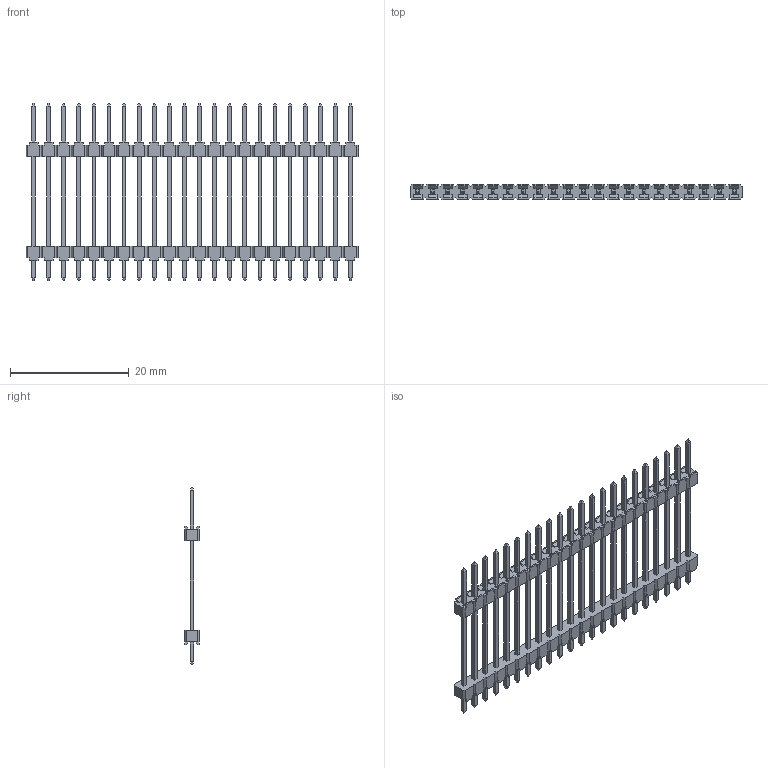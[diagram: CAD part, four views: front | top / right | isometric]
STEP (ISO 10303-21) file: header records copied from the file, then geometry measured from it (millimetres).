
FILE_DESCRIPTION(/* description */ (''),/* implementation_level */ '2;1');
FILE_NAME(/* name */ '961422-9041304-XX',/* time_stamp */ '2007-06-14T17:48:45+02:00',/* author */ (''),/* organization */ (''),/* preprocessor_version */ 'ST-DEVELOPER v9',/* originating_system */ 'UGS - NX 3.0',/* authorisation */ '');
FILE_SCHEMA (('AUTOMOTIVE_DESIGN { 1 0 10303 214 1 1 1 1 }'));
Length unit declared in the file: millimetre
Products named in the file (1): 961422-9041304-XX
Bounding box: 55.88 x 2.5 x 29.8 mm (x, y, z)
Volume: 799.8 mm3; surface area: 2579 mm2
Topology: 1 solids, 1 shells, 1200 faces, 3280 edges, 2128 vertices
Faces by surface type: plane 1200
Entity records: 37024 total; most frequent: CARTESIAN_POINT 6609, ORIENTED_EDGE 6560, DIRECTION 5682, EDGE_CURVE 3280, LINE 3280, VECTOR 3280, VERTEX_POINT 2128, EDGE_LOOP 1288
